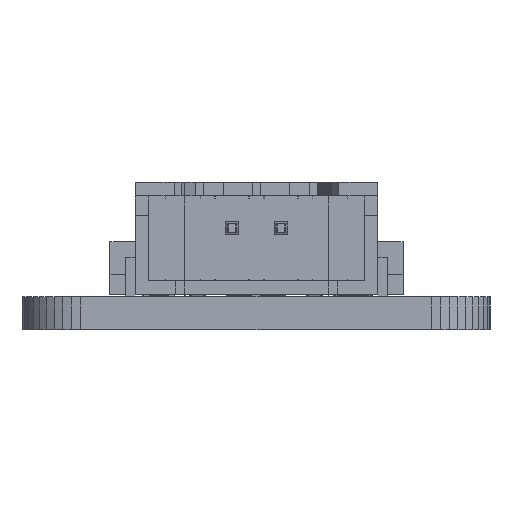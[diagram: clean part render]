
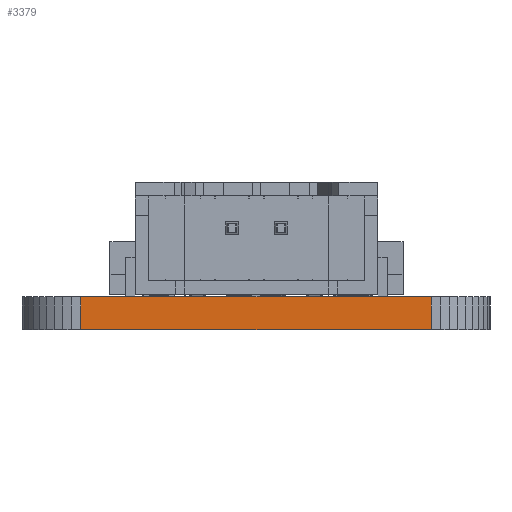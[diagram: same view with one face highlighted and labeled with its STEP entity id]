
A CAD part, front view. The second image highlights one B-rep face of the part: STEP entity #3379.
In plain terms, the highlighted planar face has unit normal (0.001, -1, 0).
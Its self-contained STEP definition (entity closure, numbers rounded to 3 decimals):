
#76 = EDGE_CURVE('',#77,#79,#81,.T.);
#77 = VERTEX_POINT('',#78);
#78 = CARTESIAN_POINT('',(9.,-11.,0.));
#79 = VERTEX_POINT('',#80);
#80 = CARTESIAN_POINT('',(9.,-11.,1.691));
#81 = SURFACE_CURVE('',#82,(#86,#98),.PCURVE_S1.);
#82 = LINE('',#83,#84);
#83 = CARTESIAN_POINT('',(9.,-11.,0.));
#84 = VECTOR('',#85,1.);
#85 = DIRECTION('',(0.,0.,1.));
#86 = PCURVE('',#87,#92);
#87 = PLANE('',#88);
#88 = AXIS2_PLACEMENT_3D('',#89,#90,#91);
#89 = CARTESIAN_POINT('',(9.,-11.,0.));
#90 = DIRECTION('',(-0.059,0.998,0.));
#91 = DIRECTION('',(0.998,0.059,0.));
#92 = DEFINITIONAL_REPRESENTATION('',(#93),#97);
#93 = LINE('',#94,#95);
#94 = CARTESIAN_POINT('',(0.,0.));
#95 = VECTOR('',#96,1.);
#96 = DIRECTION('',(0.,-1.));
#97 = ( GEOMETRIC_REPRESENTATION_CONTEXT(2) 
PARAMETRIC_REPRESENTATION_CONTEXT() REPRESENTATION_CONTEXT('2D SPACE',''
  ) );
#98 = PCURVE('',#99,#104);
#99 = PLANE('',#100);
#100 = AXIS2_PLACEMENT_3D('',#101,#102,#103);
#101 = CARTESIAN_POINT('',(-9.,-11.009,0.));
#102 = DIRECTION('',(-0.001,1.,0.));
#103 = DIRECTION('',(1.,0.001,0.));
#104 = DEFINITIONAL_REPRESENTATION('',(#105),#109);
#105 = LINE('',#106,#107);
#106 = CARTESIAN_POINT('',(18.,0.));
#107 = VECTOR('',#108,1.);
#108 = DIRECTION('',(0.,-1.));
#109 = ( GEOMETRIC_REPRESENTATION_CONTEXT(2) 
PARAMETRIC_REPRESENTATION_CONTEXT() REPRESENTATION_CONTEXT('2D SPACE',''
  ) );
#127 = PLANE('',#128);
#128 = AXIS2_PLACEMENT_3D('',#129,#130,#131);
#129 = CARTESIAN_POINT('',(9.,-11.,1.691));
#130 = DIRECTION('',(0.,0.,-1.));
#131 = DIRECTION('',(-1.,0.,0.));
#181 = PLANE('',#182);
#182 = AXIS2_PLACEMENT_3D('',#183,#184,#185);
#183 = CARTESIAN_POINT('',(9.,-11.,0.));
#184 = DIRECTION('',(0.,0.,-1.));
#185 = DIRECTION('',(-1.,0.,0.));
#3276 = PLANE('',#3277);
#3277 = AXIS2_PLACEMENT_3D('',#3278,#3279,#3280);
#3278 = CARTESIAN_POINT('',(-9.471,-10.972,0.));
#3279 = DIRECTION('',(0.078,0.997,0.));
#3280 = DIRECTION('',(0.997,-0.078,0.));
#3314 = VERTEX_POINT('',#3315);
#3315 = CARTESIAN_POINT('',(-9.,-11.009,1.691));
#3336 = EDGE_CURVE('',#3337,#3314,#3339,.T.);
#3337 = VERTEX_POINT('',#3338);
#3338 = CARTESIAN_POINT('',(-9.,-11.009,0.));
#3339 = SURFACE_CURVE('',#3340,(#3344,#3351),.PCURVE_S1.);
#3340 = LINE('',#3341,#3342);
#3341 = CARTESIAN_POINT('',(-9.,-11.009,0.));
#3342 = VECTOR('',#3343,1.);
#3343 = DIRECTION('',(0.,0.,1.));
#3344 = PCURVE('',#3276,#3345);
#3345 = DEFINITIONAL_REPRESENTATION('',(#3346),#3350);
#3346 = LINE('',#3347,#3348);
#3347 = CARTESIAN_POINT('',(0.472,0.));
#3348 = VECTOR('',#3349,1.);
#3349 = DIRECTION('',(0.,-1.));
#3350 = ( GEOMETRIC_REPRESENTATION_CONTEXT(2) 
PARAMETRIC_REPRESENTATION_CONTEXT() REPRESENTATION_CONTEXT('2D SPACE',''
  ) );
#3351 = PCURVE('',#99,#3352);
#3352 = DEFINITIONAL_REPRESENTATION('',(#3353),#3357);
#3353 = LINE('',#3354,#3355);
#3354 = CARTESIAN_POINT('',(0.,0.));
#3355 = VECTOR('',#3356,1.);
#3356 = DIRECTION('',(0.,-1.));
#3357 = ( GEOMETRIC_REPRESENTATION_CONTEXT(2) 
PARAMETRIC_REPRESENTATION_CONTEXT() REPRESENTATION_CONTEXT('2D SPACE',''
  ) );
#3379 = ADVANCED_FACE('',(#3380),#99,.F.);
#3380 = FACE_BOUND('',#3381,.F.);
#3381 = EDGE_LOOP('',(#3382,#3383,#3404,#3405));
#3382 = ORIENTED_EDGE('',*,*,#3336,.T.);
#3383 = ORIENTED_EDGE('',*,*,#3384,.T.);
#3384 = EDGE_CURVE('',#3314,#79,#3385,.T.);
#3385 = SURFACE_CURVE('',#3386,(#3390,#3397),.PCURVE_S1.);
#3386 = LINE('',#3387,#3388);
#3387 = CARTESIAN_POINT('',(-9.,-11.009,1.691));
#3388 = VECTOR('',#3389,1.);
#3389 = DIRECTION('',(1.,0.001,0.));
#3390 = PCURVE('',#99,#3391);
#3391 = DEFINITIONAL_REPRESENTATION('',(#3392),#3396);
#3392 = LINE('',#3393,#3394);
#3393 = CARTESIAN_POINT('',(0.,-1.691));
#3394 = VECTOR('',#3395,1.);
#3395 = DIRECTION('',(1.,0.));
#3396 = ( GEOMETRIC_REPRESENTATION_CONTEXT(2) 
PARAMETRIC_REPRESENTATION_CONTEXT() REPRESENTATION_CONTEXT('2D SPACE',''
  ) );
#3397 = PCURVE('',#127,#3398);
#3398 = DEFINITIONAL_REPRESENTATION('',(#3399),#3403);
#3399 = LINE('',#3400,#3401);
#3400 = CARTESIAN_POINT('',(18.,-0.009));
#3401 = VECTOR('',#3402,1.);
#3402 = DIRECTION('',(-1.,0.001));
#3403 = ( GEOMETRIC_REPRESENTATION_CONTEXT(2) 
PARAMETRIC_REPRESENTATION_CONTEXT() REPRESENTATION_CONTEXT('2D SPACE',''
  ) );
#3404 = ORIENTED_EDGE('',*,*,#76,.F.);
#3405 = ORIENTED_EDGE('',*,*,#3406,.F.);
#3406 = EDGE_CURVE('',#3337,#77,#3407,.T.);
#3407 = SURFACE_CURVE('',#3408,(#3412,#3419),.PCURVE_S1.);
#3408 = LINE('',#3409,#3410);
#3409 = CARTESIAN_POINT('',(-9.,-11.009,0.));
#3410 = VECTOR('',#3411,1.);
#3411 = DIRECTION('',(1.,0.001,0.));
#3412 = PCURVE('',#99,#3413);
#3413 = DEFINITIONAL_REPRESENTATION('',(#3414),#3418);
#3414 = LINE('',#3415,#3416);
#3415 = CARTESIAN_POINT('',(0.,0.));
#3416 = VECTOR('',#3417,1.);
#3417 = DIRECTION('',(1.,0.));
#3418 = ( GEOMETRIC_REPRESENTATION_CONTEXT(2) 
PARAMETRIC_REPRESENTATION_CONTEXT() REPRESENTATION_CONTEXT('2D SPACE',''
  ) );
#3419 = PCURVE('',#181,#3420);
#3420 = DEFINITIONAL_REPRESENTATION('',(#3421),#3425);
#3421 = LINE('',#3422,#3423);
#3422 = CARTESIAN_POINT('',(18.,-0.009));
#3423 = VECTOR('',#3424,1.);
#3424 = DIRECTION('',(-1.,0.001));
#3425 = ( GEOMETRIC_REPRESENTATION_CONTEXT(2) 
PARAMETRIC_REPRESENTATION_CONTEXT() REPRESENTATION_CONTEXT('2D SPACE',''
  ) );
